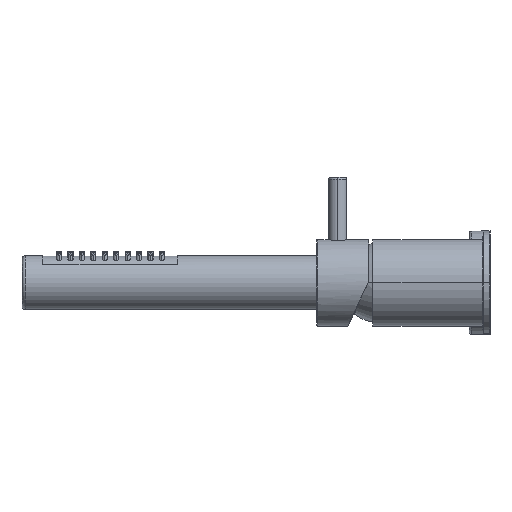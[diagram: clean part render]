
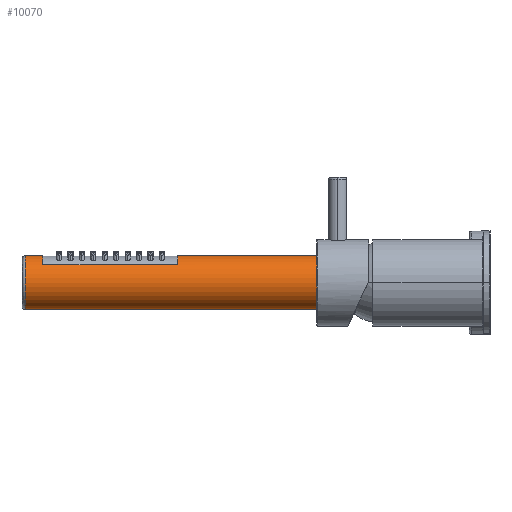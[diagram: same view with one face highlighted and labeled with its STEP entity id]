
A CAD part, left-side view. The second image highlights one B-rep face of the part: STEP entity #10070.
In plain terms, the highlighted cylindrical face has radius 13 mm (diameter 26 mm), a partial arc.
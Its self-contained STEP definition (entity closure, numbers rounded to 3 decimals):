
#6163=CARTESIAN_POINT('',(300.,215.5,0.));
#6164=DIRECTION('',(0.,-1.,0.));
#6165=DIRECTION('',(0.,0.,1.));
#6166=AXIS2_PLACEMENT_3D('',#6163,#6164,#6165);
#6168=DIRECTION('',(0.,-1.,0.));
#6169=VECTOR('',#6168,65.);
#6170=CARTESIAN_POINT('',(290.365,215.5,8.727));
#6171=LINE('',#6170,#6169);
#6172=CARTESIAN_POINT('',(300.,150.5,0.));
#6173=DIRECTION('',(0.,-1.,0.));
#6174=DIRECTION('',(0.,0.,1.));
#6175=AXIS2_PLACEMENT_3D('',#6172,#6173,#6174);
#6177=DIRECTION('',(0.,1.,0.));
#6178=VECTOR('',#6177,134.5);
#6179=CARTESIAN_POINT('',(300.,16.,13.));
#6180=LINE('',#6179,#6178);
#6181=CARTESIAN_POINT('',(300.,16.,0.));
#6182=DIRECTION('',(0.,1.,0.));
#6183=DIRECTION('',(0.,0.,-1.));
#6184=AXIS2_PLACEMENT_3D('',#6181,#6182,#6183);
#6186=DIRECTION('',(0.,1.,0.));
#6187=VECTOR('',#6186,208.);
#6188=CARTESIAN_POINT('',(300.,16.,-13.));
#6189=LINE('',#6188,#6187);
#6190=CARTESIAN_POINT('',(300.,224.,0.));
#6191=DIRECTION('',(0.,1.,0.));
#6192=DIRECTION('',(0.,0.,-1.));
#6193=AXIS2_PLACEMENT_3D('',#6190,#6191,#6192);
#6195=DIRECTION('',(0.,1.,0.));
#6196=VECTOR('',#6195,8.5);
#6197=CARTESIAN_POINT('',(300.,215.5,13.));
#6198=LINE('',#6197,#6196);
#9392=CARTESIAN_POINT('',(300.,224.,-13.));
#9393=CARTESIAN_POINT('',(300.,224.,13.));
#9394=VERTEX_POINT('',#9392);
#9395=VERTEX_POINT('',#9393);
#9396=CARTESIAN_POINT('',(300.,16.,13.));
#9397=CARTESIAN_POINT('',(300.,16.,-13.));
#9398=VERTEX_POINT('',#9396);
#9399=VERTEX_POINT('',#9397);
#9413=CARTESIAN_POINT('',(300.,215.5,13.));
#9415=VERTEX_POINT('',#9413);
#9417=CARTESIAN_POINT('',(300.,150.5,13.));
#9419=VERTEX_POINT('',#9417);
#9420=CARTESIAN_POINT('',(290.365,215.5,8.727));
#9421=VERTEX_POINT('',#9420);
#9422=CARTESIAN_POINT('',(290.365,150.5,8.727));
#9423=VERTEX_POINT('',#9422);
#10051=CARTESIAN_POINT('',(300.,236.5,0.));
#10052=DIRECTION('',(0.,-1.,0.));
#10053=DIRECTION('',(0.,0.,1.));
#10054=AXIS2_PLACEMENT_3D('',#10051,#10052,#10053);
#10055=CYLINDRICAL_SURFACE('',#10054,13.);
#10056=ORIENTED_EDGE('',*,*,#10023,.T.);
#10058=ORIENTED_EDGE('',*,*,#10057,.T.);
#10060=ORIENTED_EDGE('',*,*,#10059,.F.);
#10061=ORIENTED_EDGE('',*,*,#10042,.F.);
#10063=ORIENTED_EDGE('',*,*,#10062,.F.);
#10064=ORIENTED_EDGE('',*,*,#10038,.T.);
#10066=ORIENTED_EDGE('',*,*,#10065,.T.);
#10067=ORIENTED_EDGE('',*,*,#10034,.F.);
#10068=EDGE_LOOP('',(#10056,#10058,#10060,#10061,#10063,#10064,#10066,#10067));
#10069=FACE_OUTER_BOUND('',#10068,.F.);
#10070=ADVANCED_FACE('',(#10069),#10055,.T.);
#6167=CIRCLE('',#6166,13.);
#6176=CIRCLE('',#6175,13.);
#6185=CIRCLE('',#6184,13.);
#6194=CIRCLE('',#6193,13.);
#10023=EDGE_CURVE('',#9415,#9421,#6167,.T.);
#10034=EDGE_CURVE('',#9415,#9395,#6198,.T.);
#10038=EDGE_CURVE('',#9399,#9394,#6189,.T.);
#10042=EDGE_CURVE('',#9398,#9419,#6180,.T.);
#10057=EDGE_CURVE('',#9421,#9423,#6171,.T.);
#10059=EDGE_CURVE('',#9419,#9423,#6176,.T.);
#10062=EDGE_CURVE('',#9399,#9398,#6185,.T.);
#10065=EDGE_CURVE('',#9394,#9395,#6194,.T.);
